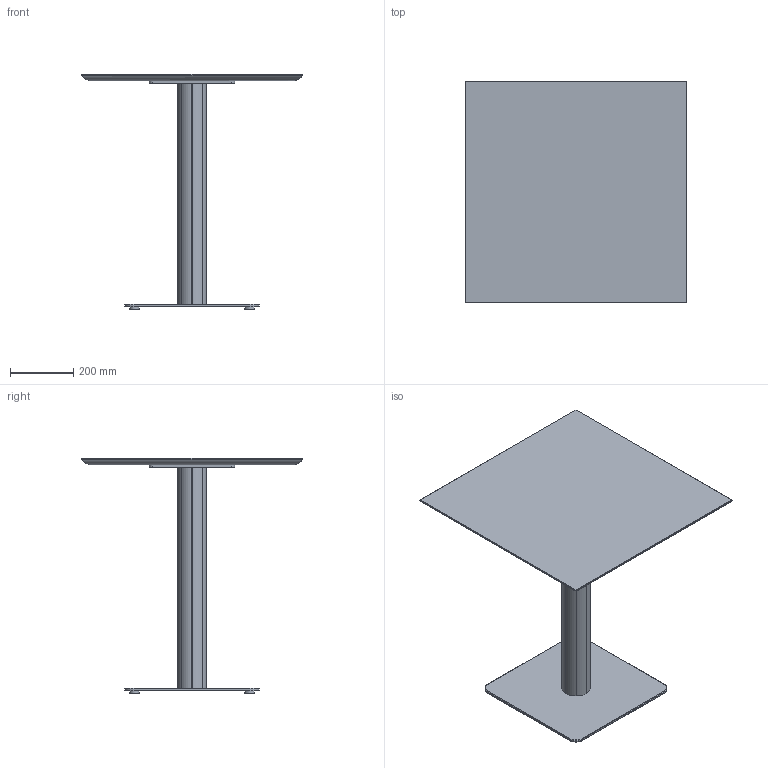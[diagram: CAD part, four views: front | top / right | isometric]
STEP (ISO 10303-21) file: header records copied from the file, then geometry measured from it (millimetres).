
FILE_DESCRIPTION( ('This file contains a STEP AP42 implementation' ,'as created by ZW3D STEP Interface translator.') ,'2;1' );
FILE_NAME( 'Fut - B_Carré - F4 - M3 - 700 x 700 x 750.stp' ,'24 911.163546', (''), ('ZWCAD Software Co.'), 'Version 1.0', 'ZW3D to STEP translator', '' );
FILE_SCHEMA(('AUTOMOTIVE_DESIGN { 1 0 10303 214 1 1 1 1 }'));
Length unit declared in the file: millimetre
Products named in the file (15): 0; PIED BISTROT PARAMETRIQUE_; CROIX ACIER 370 V.02_; CRX-X370-02_; SOCLE ACIER L 425x425 V.02_; SCL-R425-02_; PLA-R30A-01_; PLA-R30A-01; COLONNE ACIER Ø48.5 V.02_; TUB-D048-02_; PLA-R48A-01_; COLONNE BOIS PARAMETIQUE_; WUERTH 0276063020 Euro-screw 6.3x2 Verzinkt_; PLATEAU BISTROT PARAMETRIQUE_; insert_m6_13_
Assembly tree (23 placements, depth 3):
  0
  PIED BISTROT PARAMETRIQUE_
    CROIX ACIER 370 V.02_
      CRX-X370-02_
    SOCLE ACIER L 425x425 V.02_
      SCL-R425-02_
      PLA-R30A-01_
      PLA-R30A-01  x3
    COLONNE ACIER Ø48.5 V.02_
      TUB-D048-02_
      PLA-R48A-01_  x2
    COLONNE BOIS PARAMETIQUE_
    WUERTH 0276063020 Euro-screw 6.3x2 Verzinkt_
    PLATEAU BISTROT PARAMETRIQUE_
      insert_m6_13_  x8
Bounding box: 700 x 700 x 744 mm (x, y, z)
Volume: 14324753.4 mm3; surface area: 2165976.6 mm2
Topology: 23 solids, 23 shells, 557 faces, 1354 edges, 850 vertices
Faces by surface type: plane 278, bspline 125, cylinder 108, cone 45, torus 1
Full cylindrical faces by diameter (mm): 4.88 x1, 6 x8, 6.3 x1, 8 x45, 12 x2, 14 x2, 30 x4, 44.5 x3, 48.5 x1
Entity records: 13051 total; most frequent: CARTESIAN_POINT 3597, ORIENTED_EDGE 1722, DIRECTION 1592, EDGE_CURVE 861, VERTEX_POINT 552, VECTOR 550, LINE 550, AXIS2_PLACEMENT_3D 521
